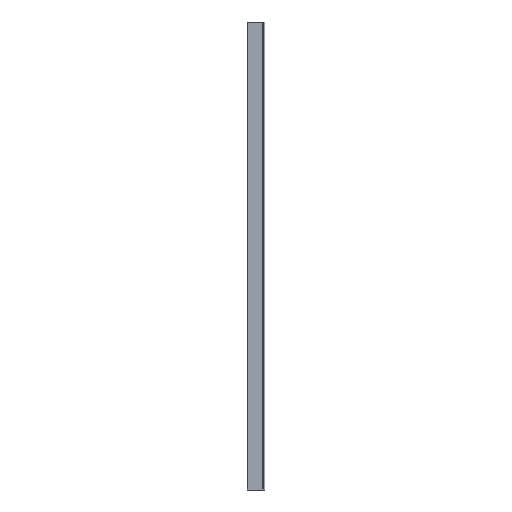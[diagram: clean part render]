
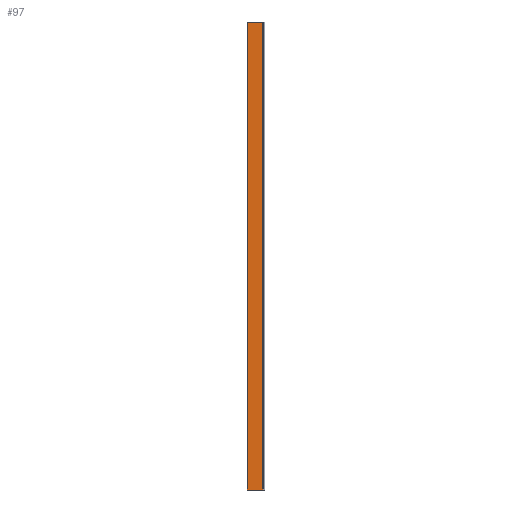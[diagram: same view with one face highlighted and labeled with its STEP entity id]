
A CAD part, left-side view. The second image highlights one B-rep face of the part: STEP entity #97.
In plain terms, the highlighted planar face has unit normal (-1, 0, 0).
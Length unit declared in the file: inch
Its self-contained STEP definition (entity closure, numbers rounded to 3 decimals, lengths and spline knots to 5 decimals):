
#38 = LINE ( 'NONE', #483, #586 ) ;
#50 = CARTESIAN_POINT ( 'NONE',  ( 0., 0.03937, 120. ) ) ;
#79 = ORIENTED_EDGE ( 'NONE', *, *, #530, .T. ) ;
#87 = FACE_OUTER_BOUND ( 'NONE', #372, .T. ) ;
#90 = VERTEX_POINT ( 'NONE', #128 ) ;
#97 = ADVANCED_FACE ( 'NONE', ( #87 ), #192, .F. ) ;
#102 = ORIENTED_EDGE ( 'NONE', *, *, #119, .F. ) ;
#116 = CARTESIAN_POINT ( 'NONE',  ( 0., 0.03937, 0. ) ) ;
#119 = EDGE_CURVE ( 'NONE', #90, #707, #502, .T. ) ;
#127 = ORIENTED_EDGE ( 'NONE', *, *, #178, .F. ) ;
#128 = CARTESIAN_POINT ( 'NONE',  ( 0., 4., 120. ) ) ;
#140 = VECTOR ( 'NONE', #621, 39.37008 ) ;
#178 = EDGE_CURVE ( 'NONE', #707, #180, #309, .T. ) ;
#180 = VERTEX_POINT ( 'NONE', #116 ) ;
#188 = CARTESIAN_POINT ( 'NONE',  ( 0., 4., 0. ) ) ;
#192 = PLANE ( 'NONE',  #634 ) ;
#202 = LINE ( 'NONE', #571, #526 ) ;
#255 = DIRECTION ( 'NONE',  ( 1., 0., 0. ) ) ;
#274 = DIRECTION ( 'NONE',  ( 0., -1., 0. ) ) ;
#281 = ORIENTED_EDGE ( 'NONE', *, *, #290, .T. ) ;
#290 = EDGE_CURVE ( 'NONE', #90, #291, #202, .T. ) ;
#291 = VERTEX_POINT ( 'NONE', #188 ) ;
#309 = LINE ( 'NONE', #625, #627 ) ;
#348 = CARTESIAN_POINT ( 'NONE',  ( 0., 0.03937, 120. ) ) ;
#372 = EDGE_LOOP ( 'NONE', ( #79, #127, #102, #281 ) ) ;
#389 = CARTESIAN_POINT ( 'NONE',  ( 0., 0.03937, 120. ) ) ;
#464 = DIRECTION ( 'NONE',  ( 0., 0., -1. ) ) ;
#469 = DIRECTION ( 'NONE',  ( 0., 0., -1. ) ) ;
#483 = CARTESIAN_POINT ( 'NONE',  ( 0., 0.03937, 0. ) ) ;
#502 = LINE ( 'NONE', #348, #140 ) ;
#526 = VECTOR ( 'NONE', #469, 39.37008 ) ;
#530 = EDGE_CURVE ( 'NONE', #291, #180, #38, .T. ) ;
#571 = CARTESIAN_POINT ( 'NONE',  ( 0., 4., 120. ) ) ;
#586 = VECTOR ( 'NONE', #274, 39.37008 ) ;
#621 = DIRECTION ( 'NONE',  ( 0., -1., 0. ) ) ;
#625 = CARTESIAN_POINT ( 'NONE',  ( 0., 0.03937, 120. ) ) ;
#627 = VECTOR ( 'NONE', #464, 39.37008 ) ;
#634 = AXIS2_PLACEMENT_3D ( 'NONE', #50, #255, #638 ) ;
#638 = DIRECTION ( 'NONE',  ( 0., 0., -1. ) ) ;
#707 = VERTEX_POINT ( 'NONE', #389 ) ;
